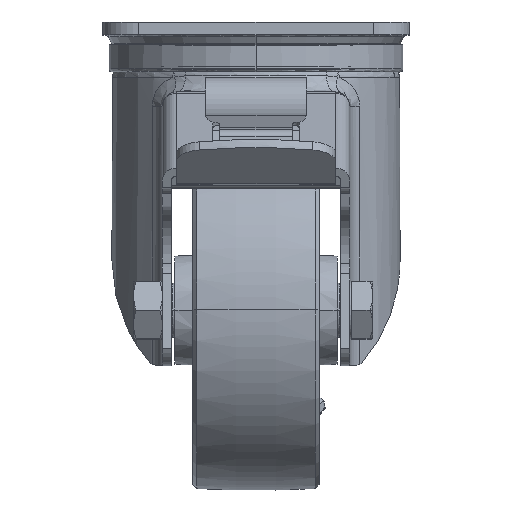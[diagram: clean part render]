
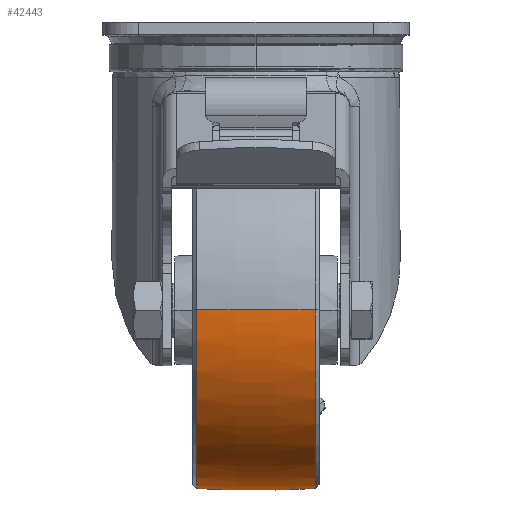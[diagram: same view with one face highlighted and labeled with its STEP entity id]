
A CAD part, top view. The second image highlights one B-rep face of the part: STEP entity #42443.
In plain terms, the highlighted toroidal (fillet/blend) face has major radius 250 mm and minor radius 300 mm.
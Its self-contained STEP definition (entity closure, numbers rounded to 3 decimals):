
#708 = CARTESIAN_POINT ( 'NONE',  ( -16.503, 0., 49.546 ) ) ;
#709 = CARTESIAN_POINT ( 'NONE',  ( -16.503, 0., -49.546 ) ) ;
#712 = CARTESIAN_POINT ( 'NONE',  ( 16.44, 0., -49.549 ) ) ;
#713 = CARTESIAN_POINT ( 'NONE',  ( 16.44, 0., 49.549 ) ) ;
#2833 = EDGE_LOOP ( 'NONE', ( #5811, #5812, #5813, #5814 ) ) ;
#5811 = ORIENTED_EDGE ( 'NONE', *, *, #46993, .T. ) ;
#5812 = ORIENTED_EDGE ( 'NONE', *, *, #47114, .T. ) ;
#5813 = ORIENTED_EDGE ( 'NONE', *, *, #47000, .T. ) ;
#5814 = ORIENTED_EDGE ( 'NONE', *, *, #47120, .F. ) ;
#16315 = AXIS2_PLACEMENT_3D ( 'NONE', #25923, #25939, #25941 ) ;
#16772 = AXIS2_PLACEMENT_3D ( 'NONE', #61732, #61734, #61736 ) ;
#16774 = AXIS2_PLACEMENT_3D ( 'NONE', #61758, #61760, #61762 ) ;
#16808 = AXIS2_PLACEMENT_3D ( 'NONE', #62258, #62260, #62262 ) ;
#16814 = AXIS2_PLACEMENT_3D ( 'NONE', #62306, #62308, #62310 ) ;
#25923 = CARTESIAN_POINT ( 'NONE',  ( 0., 0., 0. ) ) ;
#25939 = DIRECTION ( 'NONE',  ( -1., 0., 0. ) ) ;
#25941 = DIRECTION ( 'NONE',  ( 0., 0., 1. ) ) ;
#28036 = FACE_OUTER_BOUND ( 'NONE', #2833, .T. ) ;
#28040 = TOROIDAL_SURFACE ( 'NONE', #16315, -250., 300. ) ;
#38120 = CIRCLE ( 'NONE', #16772, 49.549 ) ;
#38130 = CIRCLE ( 'NONE', #16774, 49.546 ) ;
#38216 = CIRCLE ( 'NONE', #16808, 300. ) ;
#38226 = CIRCLE ( 'NONE', #16814, 300. ) ;
#42443 = ADVANCED_FACE ( 'NONE', ( #28036 ), #28040, .T. ) ;
#46993 = EDGE_CURVE ( 'NONE', #67309, #67308, #38120, .T. ) ;
#47000 = EDGE_CURVE ( 'NONE', #67305, #67304, #38130, .T. ) ;
#47114 = EDGE_CURVE ( 'NONE', #67308, #67305, #38216, .T. ) ;
#47120 = EDGE_CURVE ( 'NONE', #67309, #67304, #38226, .T. ) ;
#61732 = CARTESIAN_POINT ( 'NONE',  ( 16.44, 0., 0. ) ) ;
#61734 = DIRECTION ( 'NONE',  ( -1., 0., 0. ) ) ;
#61736 = DIRECTION ( 'NONE',  ( 0., 0., 1. ) ) ;
#61758 = CARTESIAN_POINT ( 'NONE',  ( -16.503, 0., 0. ) ) ;
#61760 = DIRECTION ( 'NONE',  ( 1., 0., 0. ) ) ;
#61762 = DIRECTION ( 'NONE',  ( 0., 0., -1. ) ) ;
#62258 = CARTESIAN_POINT ( 'NONE',  ( 0., 0., 250. ) ) ;
#62260 = DIRECTION ( 'NONE',  ( 0., 1., 0. ) ) ;
#62262 = DIRECTION ( 'NONE',  ( 0., 0., 1. ) ) ;
#62306 = CARTESIAN_POINT ( 'NONE',  ( 0., 0., -250. ) ) ;
#62308 = DIRECTION ( 'NONE',  ( 0., -1., 0. ) ) ;
#62310 = DIRECTION ( 'NONE',  ( 0., 0., -1. ) ) ;
#67304 = VERTEX_POINT ( 'NONE', #708 ) ;
#67305 = VERTEX_POINT ( 'NONE', #709 ) ;
#67308 = VERTEX_POINT ( 'NONE', #712 ) ;
#67309 = VERTEX_POINT ( 'NONE', #713 ) ;
